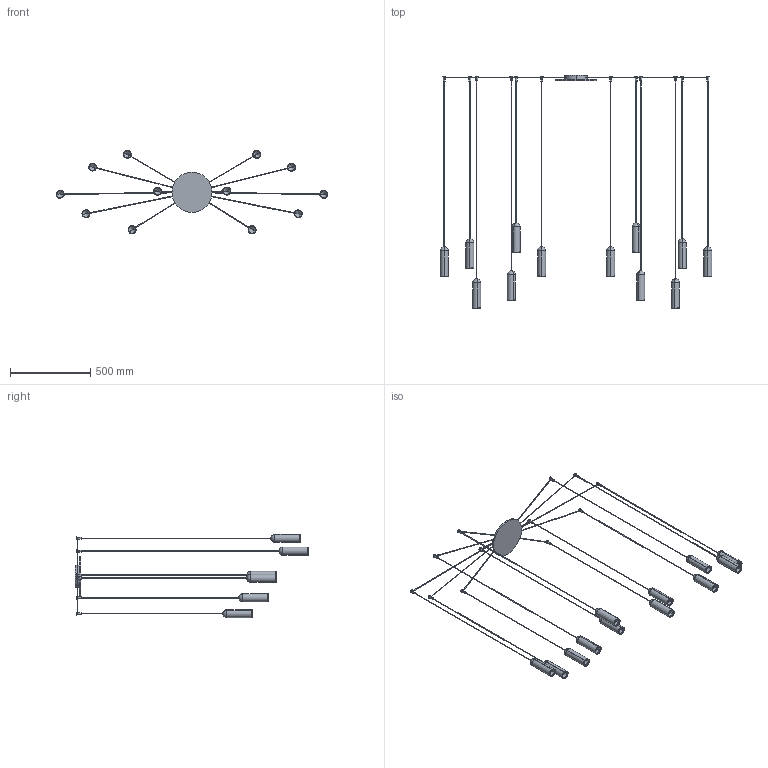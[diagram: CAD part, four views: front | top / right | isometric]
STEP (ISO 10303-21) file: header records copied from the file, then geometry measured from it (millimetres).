
FILE_DESCRIPTION (( 'STEP AP203' ), '1' );
FILE_NAME ('NANB4-00-NANUM_12_B sospensione.STEP', '2025-05-05T14:42:02', ( '' ), ( '' ), 'SwSTEP 2.0', 'SolidWorks 2022', '' );
FILE_SCHEMA (( 'CONFIG_CONTROL_DESIGN' ));
Length unit declared in the file: millimetre
Products named in the file (7): NANB4-00-NANUM_12_B sospensione; NANUM_LAMPADA SINGOLA_H=1600; NANUM_LAMPADA SINGOLA_H=1750; Nanum_Rosone_NANUM_12_B sospensione<A macchina>; NANUM_LAMPADA SINGOLA_H=1550; NANUM_LAMPADA SINGOLA_H=1900; NANUM_LAMPADA SINGOLA_H=1800
Assembly tree (13 placements, depth 2):
  NANB4-00-NANUM_12_B sospensione
    Nanum_Rosone_NANUM_12_B sospensione<A macchina>
    NANUM_LAMPADA SINGOLA_H=1750  x4
    NANUM_LAMPADA SINGOLA_H=1550  x2
    NANUM_LAMPADA SINGOLA_H=1800  x2
    NANUM_LAMPADA SINGOLA_H=1900  x2
    NANUM_LAMPADA SINGOLA_H=1600  x2
Bounding box: 1695.99 x 1454.5 x 519.99 mm (x, y, z)
Volume: 1974921.7 mm3; surface area: 1096242.1 mm2
Topology: 37 solids, 37 shells, 460 faces, 998 edges, 565 vertices
Faces by surface type: cylinder 249, plane 91, cone 48, sphere 48, torus 24
Entity records: 7017 total; most frequent: CARTESIAN_POINT 1433, DIRECTION 1086, ORIENTED_EDGE 868, AXIS2_PLACEMENT_3D 474, EDGE_CURVE 434, VERTEX_POINT 265, EDGE_LOOP 257, ADVANCED_FACE 236
